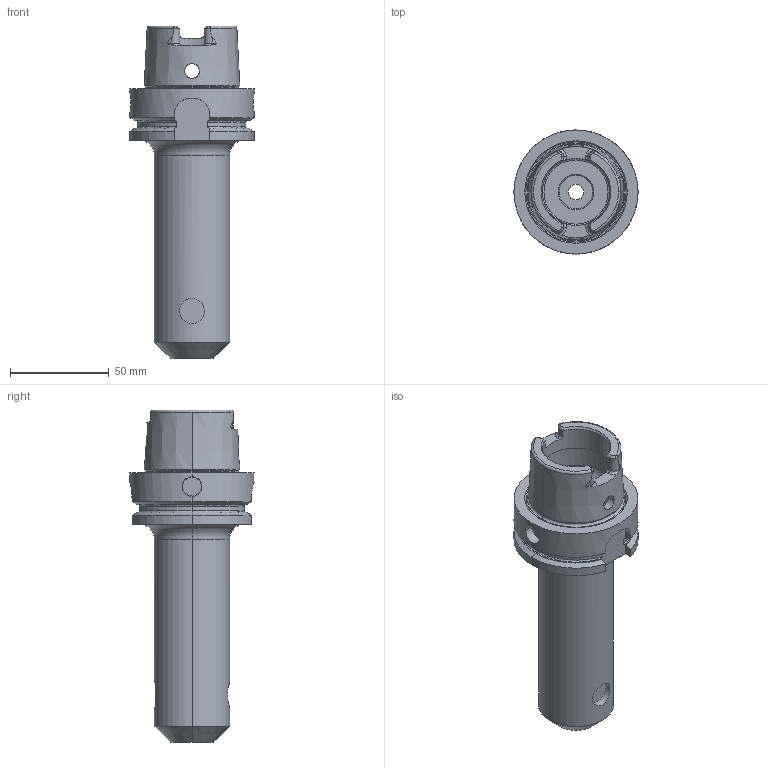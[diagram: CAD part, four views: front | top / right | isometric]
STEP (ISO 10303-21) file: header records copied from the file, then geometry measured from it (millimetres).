
FILE_DESCRIPTION (( 'STEP AP214' ), '1' );
FILE_NAME ('RHSK63AEM0625538.STEP', '2019-02-08T14:50:55', ( '' ), ( '' ), 'SwSTEP 2.0', 'SolidWorks 2019', '' );
FILE_SCHEMA (( 'AUTOMOTIVE_DESIGN' ));
Length unit declared in the file: inch
Products named in the file (1): RHSK63AEM0625538
Bounding box: 62.94 x 62.94 x 168.43 mm (x, y, z)
Volume: 183757 mm3; surface area: 40403.4 mm2
Topology: 1 solids, 1 shells, 195 faces, 488 edges, 299 vertices
Faces by surface type: plane 65, cylinder 58, cone 45, torus 27
Entity records: 6929 total; most frequent: CARTESIAN_POINT 2269, ORIENTED_EDGE 972, DIRECTION 971, EDGE_CURVE 486, AXIS2_PLACEMENT_3D 391, VERTEX_POINT 299, EDGE_LOOP 207, CIRCLE 195
